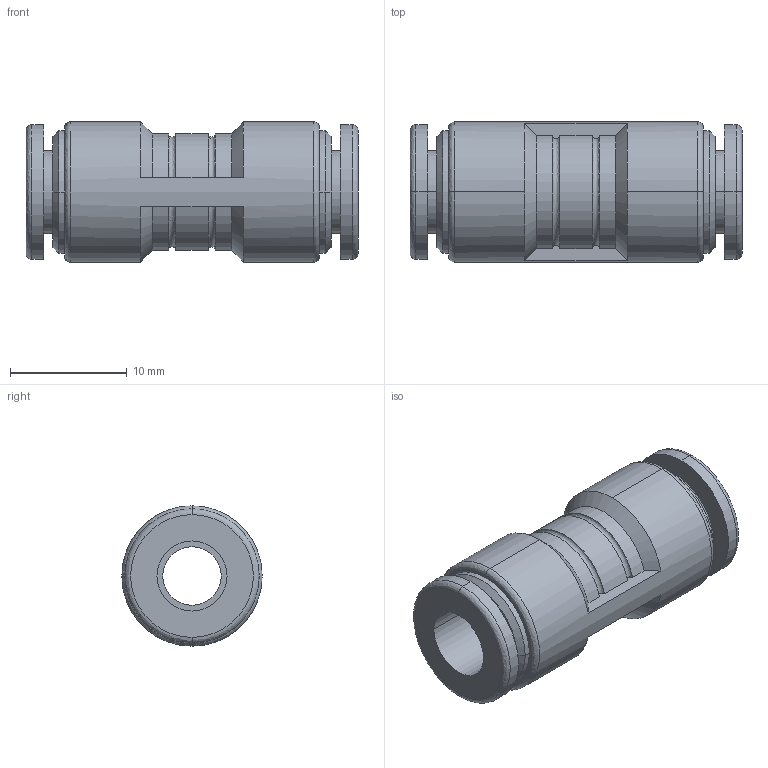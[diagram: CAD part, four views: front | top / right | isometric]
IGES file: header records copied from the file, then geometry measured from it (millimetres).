
Global section: file name: No Iges File Name specified; native system: AutoDesk Inventor R11.0; preprocessor: AutoDesk Inventor Iges Exporter R11.0; author: No Author specified; organization: No Organization specified; date: 20120321.161345; units: millimetre
Bounding box: 28.4 x 12 x 12 mm (x, y, z)
Volume: 1985.8 mm3; surface area: 1972.7 mm2
Topology: 1 solids, 1 shells, 60 faces, 138 edges, 88 vertices
Faces by surface type: bspline 27, cylinder 12, plane 9, cone 4, torus 4, revolution 4
